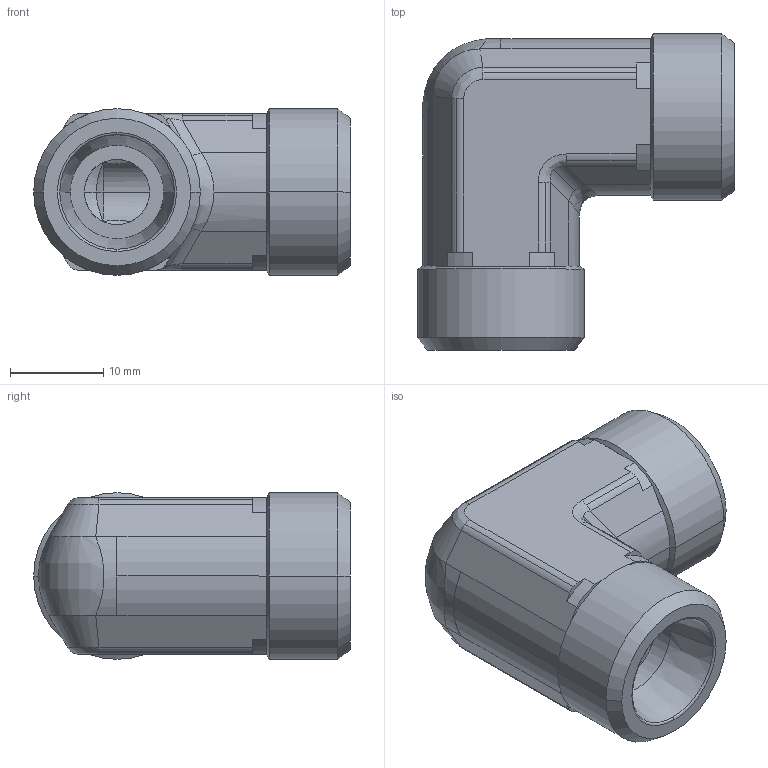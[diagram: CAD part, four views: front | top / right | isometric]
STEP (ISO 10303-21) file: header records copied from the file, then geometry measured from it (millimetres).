
FILE_DESCRIPTION((''),'2;1');
FILE_NAME('103816.stp','2007-10-31T11:52:28',(''),(''),'AutoCAD STEP 2000i','AutoCAD 2000i',', , ');
FILE_SCHEMA(('CONFIG_CONTROL_DESIGN'));
Length unit declared in the file: millimetre
Products named in the file (2): 103816.0; 3090#0
Assembly tree (1 placements, depth 2):
  103816.0
    3090#0
Bounding box: 33.92 x 33.92 x 17.85 mm (x, y, z)
Volume: 9131 mm3; surface area: 4340.1 mm2
Topology: 1 solids, 1 shells, 120 faces, 282 edges, 166 vertices
Faces by surface type: cylinder 52, plane 34, cone 20, bspline 14
Entity records: 4283 total; most frequent: CARTESIAN_POINT 1402, DIRECTION 622, ORIENTED_EDGE 564, EDGE_CURVE 282, AXIS2_PLACEMENT_3D 250, VERTEX_POINT 166, CIRCLE 124, EDGE_LOOP 124
